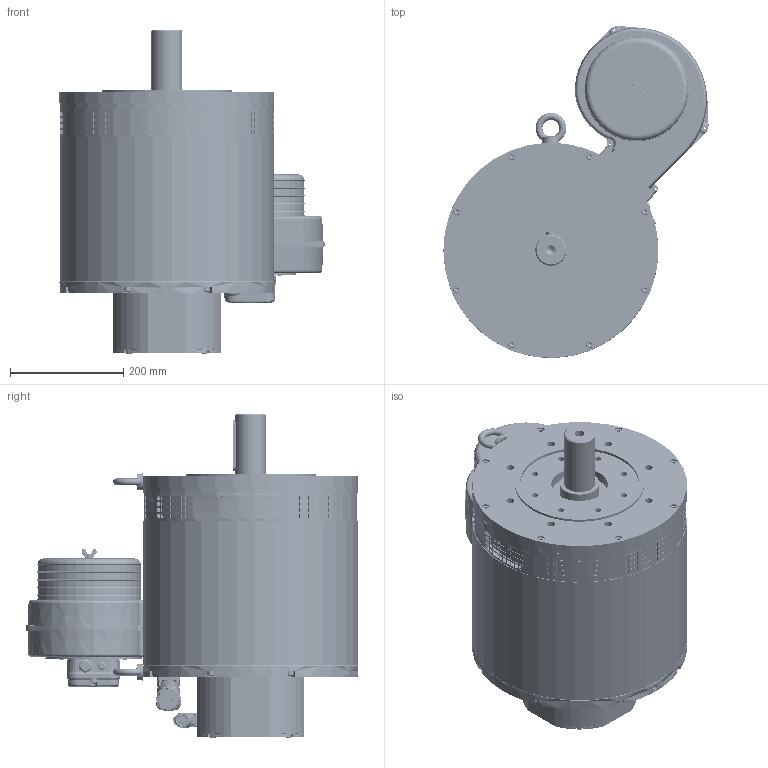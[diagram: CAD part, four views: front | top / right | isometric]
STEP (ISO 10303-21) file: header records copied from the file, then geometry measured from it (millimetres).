
FILE_DESCRIPTION(/* description */ (''),/* implementation_level */ '2;1');
FILE_NAME(/* name */ 'C:\Users\Public\Documents\Autodesk\Inventor LT 2014\Workspace\Motori Sito WEB\TG_9\STEP_DAF_9x\DAF_92_x199.stp',/* time_stamp */ '2021-04-07T16:01:54+02:00',/* author */ ('marcor'),/* organization */ (''),/* preprocessor_version */ 'ST-DEVELOPER v15.2',/* originating_system */ 'Autodesk Inventor LT ',/* authorisation */ '');
FILE_SCHEMA (('AUTOMOTIVE_DESIGN { 1 0 10303 214 3 1 1 }'));
Length unit declared in the file: millimetre
Products named in the file (1): DAF_92_x199
Bounding box: 468.81 x 587.06 x 572 mm (x, y, z)
Volume: 45624623 mm3; surface area: 2109705.4 mm2
Topology: 34 solids, 45 shells, 4997 faces, 13091 edges, 8496 vertices
Faces by surface type: plane 2657, cylinder 1462, cone 499, torus 189, bspline 171, sphere 19
Full cylindrical faces by diameter (mm): 1.2 x12, 2 x98, 2.013 x4, 2.224 x4, 2.5 x4, 2.88 x4, 3.2 x1, 3.242 x4, 3.26 x4, 3.5 x1, 3.6 x5, 4 x9, 4.3 x1, 4.5 x1, 4.8 x4, 4.917 x4, 5.4 x1, 5.5 x1, 5.9 x1, 6 x4, 6.2 x2, 6.3 x2, 6.5 x12, 6.647 x16, 7 x8, 8 x19, 8.5 x1, 9 x16, 9.853 x2, 10 x8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
Entity records: 164751 total; most frequent: CARTESIAN_POINT 41691, DIRECTION 25046, ORIENTED_EDGE 24362, EDGE_CURVE 12181, AXIS2_PLACEMENT_3D 9535, VERTEX_POINT 8279, EDGE_LOOP 6476, LINE 5976
